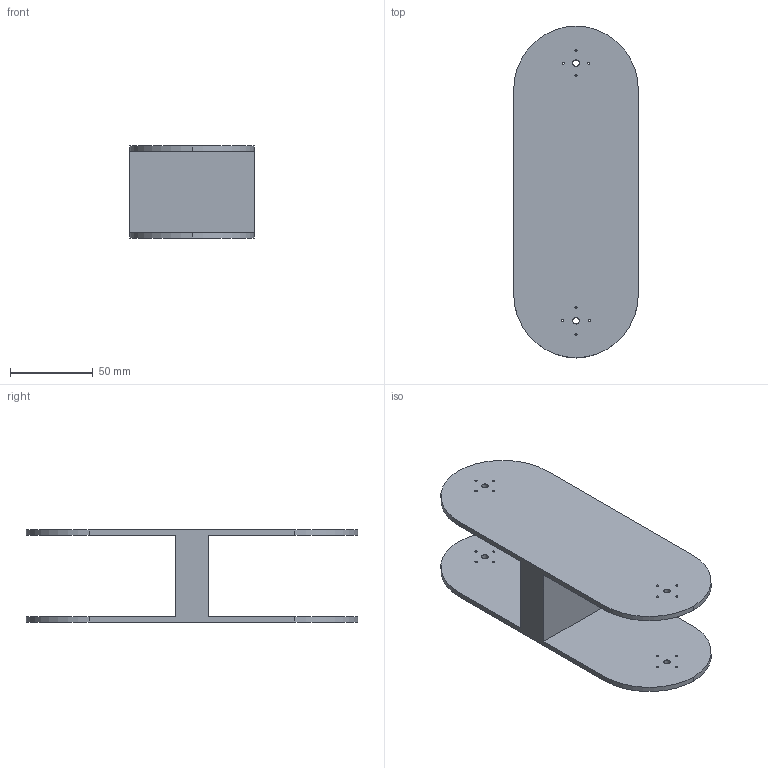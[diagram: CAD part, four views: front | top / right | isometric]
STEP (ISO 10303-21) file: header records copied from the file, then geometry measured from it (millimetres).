
FILE_DESCRIPTION(/* description */ ('STEP AP242','CAx-IF Rec.Pracs.---Representation and Presentation of Product Manufacturing Information (PMI)---4.0---2014-10-13','CAx-IF Rec.Pracs.---3D Tessellated Geometry---0.4---2014-09-14','2;1'),/* implementation_level */ '2;1');
FILE_NAME(/* name */ '65dac0e4f3c31e2e3b9e1ef5',/* time_stamp */ '2024-02-25T04:24:04Z',/* author */ (''),/* organization */ (''),/* preprocessor_version */ 'ST-DEVELOPER v19.4',/* originating_system */ ' ',/* authorisation */ ' ');
FILE_SCHEMA (('AP242_MANAGED_MODEL_BASED_3D_ENGINEERING_MIM_LF { 1 0 10303 442 1 1 4 }'));
Length unit declared in the file: metre
Products named in the file (1): Part 1
Bounding box: 75 x 199.99 x 55.45 mm (x, y, z)
Volume: 160070.5 mm3; surface area: 64650.1 mm2
Topology: 1 solids, 1 shells, 38 faces, 108 edges, 72 vertices
Faces by surface type: cylinder 28, plane 10
Full cylindrical faces by diameter (mm): 1.28 x16, 4 x4
Entity records: 1270 total; most frequent: DIRECTION 222, CARTESIAN_POINT 199, ORIENTED_EDGE 176, EDGE_LOOP 98, FACE_BOUND 98, AXIS2_PLACEMENT_3D 95, EDGE_CURVE 88, VERTEX_POINT 72
